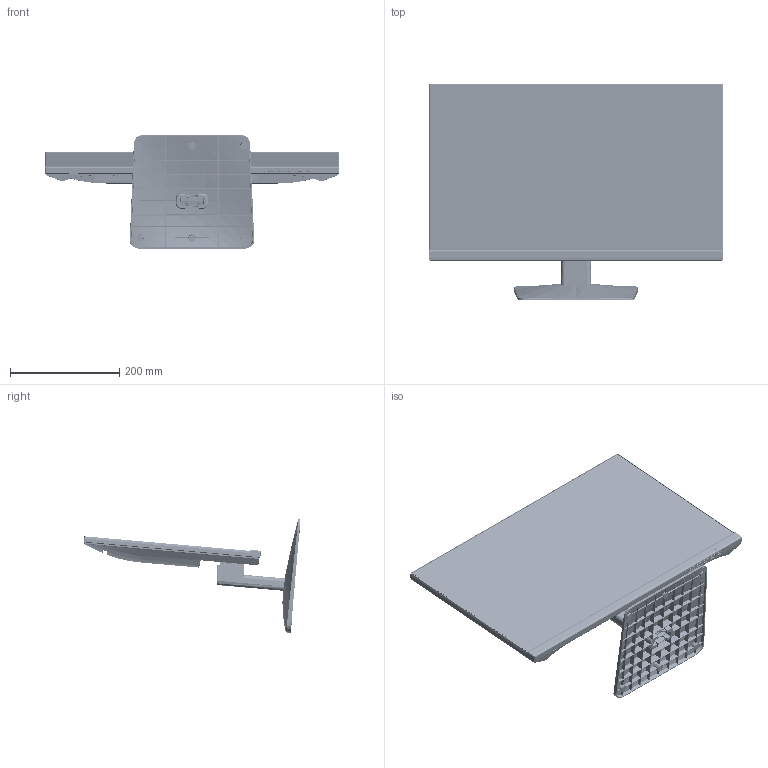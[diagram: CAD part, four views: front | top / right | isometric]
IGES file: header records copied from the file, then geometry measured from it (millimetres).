
Start section: SolidWorks IGES file using analytic representation for surfaces
Global section: file name: C:\Users\dmcneil\Desktop\PXN\PXN2400\Files for export\Planar PXN2400.IGS; native system: SolidWorks 2019; preprocessor: SolidWorks 2019; author: dmcneil; date: 200911.125321; units: millimetre
Bounding box: 539.54 x 397.97 x 209.11 mm (x, y, z)
Surface area: 1153333.5 mm2 (no closed solid volume)
Topology: 0 solids, 0 shells, 8476 faces, 67512 edges, 67371 vertices
Faces by surface type: bspline 6554, revolution 1922
